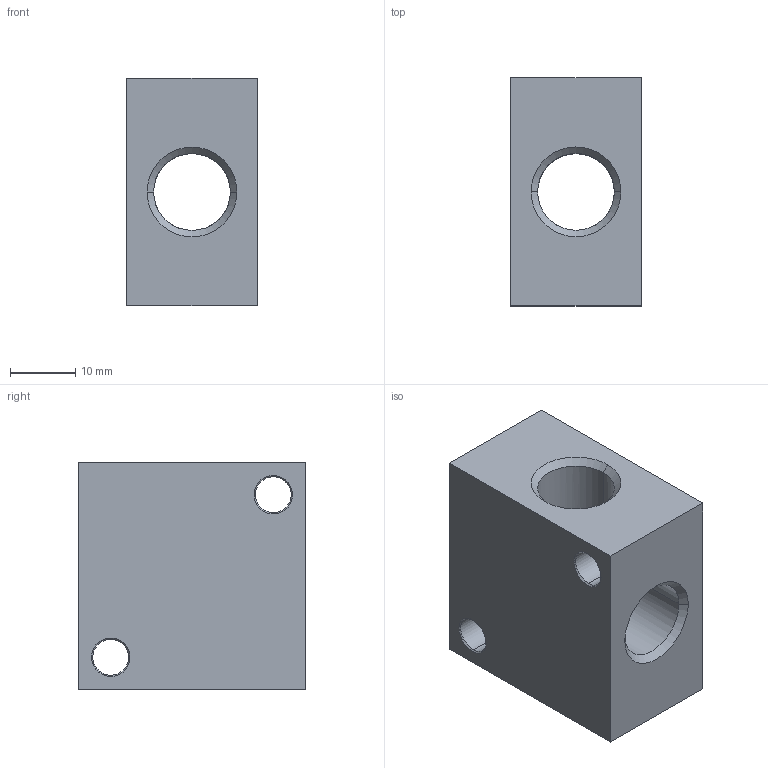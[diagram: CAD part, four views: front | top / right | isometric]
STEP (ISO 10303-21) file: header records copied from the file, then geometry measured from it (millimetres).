
FILE_DESCRIPTION (( 'STEP AP214' ), '1' );
FILE_NAME ('Janatics-Default.STEP', '2023-05-21T05:49:23', ( '' ), ( '' ), 'SwSTEP 2.0', 'SolidWorks 2022', '' );
FILE_SCHEMA (( 'AUTOMOTIVE_DESIGN' ));
Length unit declared in the file: millimetre
Products named in the file (2): WJ01_410731B; Janatics-Default
Assembly tree (1 placements, depth 2):
  Janatics-Default
    WJ01_410731B
Bounding box: 20 x 35 x 35 mm (x, y, z)
Volume: 16910.2 mm3; surface area: 7357.1 mm2
Topology: 1 solids, 1 shells, 34 faces, 76 edges, 42 vertices
Faces by surface type: cone 16, cylinder 12, plane 6
Entity records: 1098 total; most frequent: DIRECTION 180, CARTESIAN_POINT 168, ORIENTED_EDGE 152, EDGE_CURVE 76, AXIS2_PLACEMENT_3D 70, VERTEX_POINT 42, EDGE_LOOP 42, VECTOR 40
